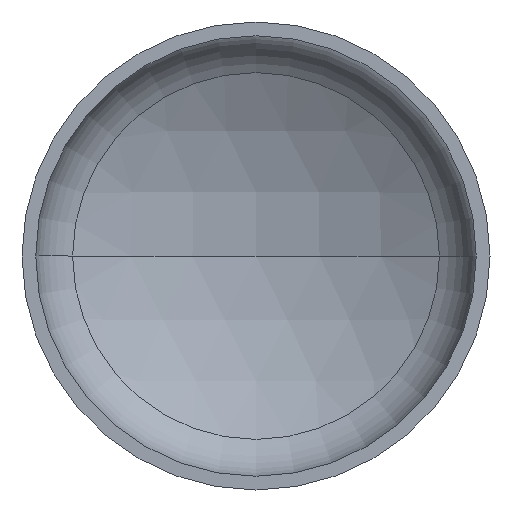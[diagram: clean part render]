
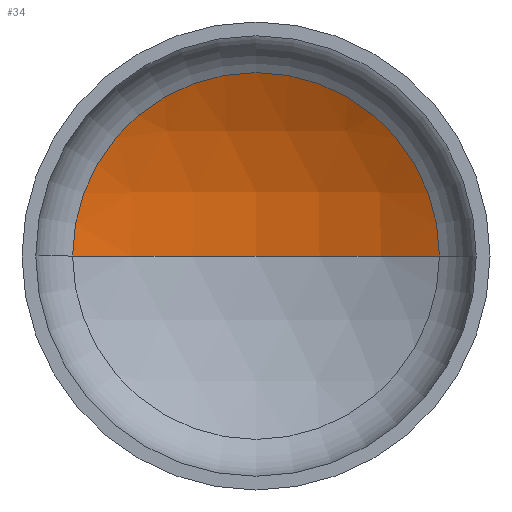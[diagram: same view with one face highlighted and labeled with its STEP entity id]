
A CAD part, front view. The second image highlights one B-rep face of the part: STEP entity #34.
In plain terms, the highlighted spherical face has radius 2720 mm.
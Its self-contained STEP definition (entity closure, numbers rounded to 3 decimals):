
#11 = DIRECTION ( 'NONE',  ( 1., 0., 0. ) ) ;
#13 = DIRECTION ( 'NONE',  ( 0., 0., 1. ) ) ;
#17 = EDGE_LOOP ( 'NONE', ( #40, #57, #71 ) ) ;
#25 = CARTESIAN_POINT ( 'NONE',  ( 0., -1813.74, 0. ) ) ;
#34 = ADVANCED_FACE ( 'NONE', ( #272 ), #341, .F. ) ;
#36 = CIRCLE ( 'NONE', #104, 2720. ) ;
#40 = ORIENTED_EDGE ( 'NONE', *, *, #250, .F. ) ;
#57 = ORIENTED_EDGE ( 'NONE', *, *, #247, .T. ) ;
#61 = VERTEX_POINT ( 'NONE', #240 ) ;
#71 = ORIENTED_EDGE ( 'NONE', *, *, #245, .T. ) ;
#83 = AXIS2_PLACEMENT_3D ( 'NONE', #25, #13, #11 ) ;
#97 = AXIS2_PLACEMENT_3D ( 'NONE', #249, #273, #270 ) ;
#104 = AXIS2_PLACEMENT_3D ( 'NONE', #227, #226, #149 ) ;
#127 = VERTEX_POINT ( 'NONE', #225 ) ;
#134 = VERTEX_POINT ( 'NONE', #313 ) ;
#149 = DIRECTION ( 'NONE',  ( -1., 0., 0. ) ) ;
#192 = AXIS2_PLACEMENT_3D ( 'NONE', #395, #261, #244 ) ;
#225 = CARTESIAN_POINT ( 'NONE',  ( 0., 906.26, 0. ) ) ;
#226 = DIRECTION ( 'NONE',  ( 0., 0., -1. ) ) ;
#227 = CARTESIAN_POINT ( 'NONE',  ( 0., -1813.74, 0. ) ) ;
#240 = CARTESIAN_POINT ( 'NONE',  ( -1332.118, 557.728, 0. ) ) ;
#242 = CIRCLE ( 'NONE', #97, 1332.118 ) ;
#244 = DIRECTION ( 'NONE',  ( -1., 0., 0. ) ) ;
#245 = EDGE_CURVE ( 'NONE', #134, #61, #242, .T. ) ;
#247 = EDGE_CURVE ( 'NONE', #127, #134, #36, .T. ) ;
#249 = CARTESIAN_POINT ( 'NONE',  ( 0., 557.728, 0. ) ) ;
#250 = EDGE_CURVE ( 'NONE', #127, #61, #304, .T. ) ;
#261 = DIRECTION ( 'NONE',  ( 0., 0., -1. ) ) ;
#270 = DIRECTION ( 'NONE',  ( 1., 0., 0. ) ) ;
#272 = FACE_OUTER_BOUND ( 'NONE', #17, .T. ) ;
#273 = DIRECTION ( 'NONE',  ( 0., -1., 0. ) ) ;
#304 = CIRCLE ( 'NONE', #83, 2720. ) ;
#313 = CARTESIAN_POINT ( 'NONE',  ( 1332.118, 557.728, 0. ) ) ;
#341 = SPHERICAL_SURFACE ( 'NONE', #192, 2720. ) ;
#395 = CARTESIAN_POINT ( 'NONE',  ( 0., -1813.74, 0. ) ) ;
